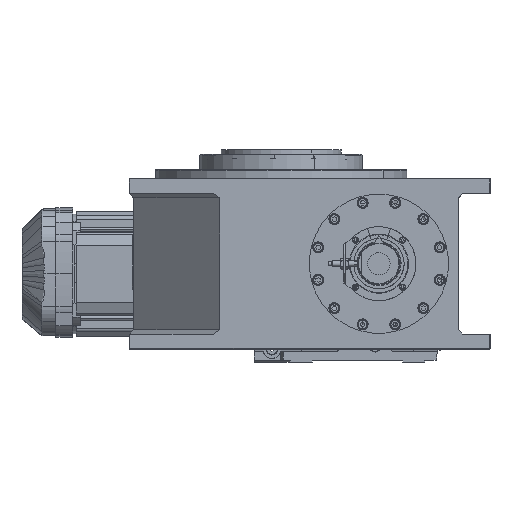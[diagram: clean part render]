
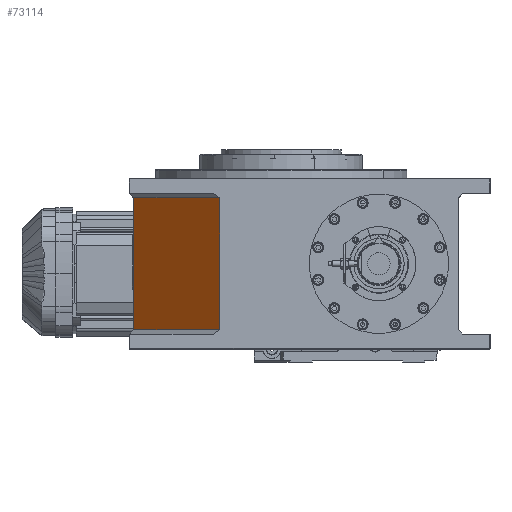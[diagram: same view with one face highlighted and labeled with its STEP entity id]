
A CAD part, top view. The second image highlights one B-rep face of the part: STEP entity #73114.
In plain terms, the highlighted planar face has unit normal (-0.707, 0, 0.707).
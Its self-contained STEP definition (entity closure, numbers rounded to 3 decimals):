
#1598 = CARTESIAN_POINT ( 'NONE',  ( -83.259, 210., 199. ) ) ;
#2808 = CARTESIAN_POINT ( 'NONE',  ( -199., 204., 83.259 ) ) ;
#6483 = AXIS2_PLACEMENT_3D ( 'NONE', #41016, #56035, #42030 ) ;
#7607 = DIRECTION ( 'NONE',  ( 0., -1., 0. ) ) ;
#8006 = DIRECTION ( 'NONE',  ( -0.707, 0., -0.707 ) ) ;
#12718 = CARTESIAN_POINT ( 'NONE',  ( -83.259, 26., 199. ) ) ;
#13992 = CARTESIAN_POINT ( 'NONE',  ( -199., 210., 83.259 ) ) ;
#21503 = LINE ( 'NONE', #13992, #76202 ) ;
#22595 = LINE ( 'NONE', #44779, #63235 ) ;
#24342 = VECTOR ( 'NONE', #7607, 1000. ) ;
#34984 = ORIENTED_EDGE ( 'NONE', *, *, #62269, .T. ) ;
#37275 = CARTESIAN_POINT ( 'NONE',  ( -199., 26., 83.259 ) ) ;
#37759 = LINE ( 'NONE', #1598, #24342 ) ;
#41016 = CARTESIAN_POINT ( 'NONE',  ( -83.259, 210., 199. ) ) ;
#42030 = DIRECTION ( 'NONE',  ( -0.707, 0., -0.707 ) ) ;
#44315 = VECTOR ( 'NONE', #72981, 1000. ) ;
#44624 = VERTEX_POINT ( 'NONE', #99109 ) ;
#44779 = CARTESIAN_POINT ( 'NONE',  ( -199., 204., 83.259 ) ) ;
#50302 = CARTESIAN_POINT ( 'NONE',  ( -83.259, 26., 199. ) ) ;
#53109 = DIRECTION ( 'NONE',  ( 0., -1., 0. ) ) ;
#56000 = EDGE_CURVE ( 'NONE', #44624, #83010, #37759, .T. ) ;
#56035 = DIRECTION ( 'NONE',  ( 0.707, 0., -0.707 ) ) ;
#58851 = EDGE_LOOP ( 'NONE', ( #72189, #34984, #66465, #93001 ) ) ;
#62269 = EDGE_CURVE ( 'NONE', #44624, #65416, #22595, .T. ) ;
#62677 = EDGE_CURVE ( 'NONE', #65416, #89645, #21503, .T. ) ;
#63235 = VECTOR ( 'NONE', #8006, 1000. ) ;
#64391 = LINE ( 'NONE', #50302, #44315 ) ;
#65416 = VERTEX_POINT ( 'NONE', #2808 ) ;
#66465 = ORIENTED_EDGE ( 'NONE', *, *, #62677, .T. ) ;
#72189 = ORIENTED_EDGE ( 'NONE', *, *, #56000, .F. ) ;
#72981 = DIRECTION ( 'NONE',  ( 0.707, 0., 0.707 ) ) ;
#73114 = ADVANCED_FACE ( 'NONE', ( #79241 ), #95911, .F. ) ;
#76202 = VECTOR ( 'NONE', #53109, 1000. ) ;
#79241 = FACE_OUTER_BOUND ( 'NONE', #58851, .T. ) ;
#83010 = VERTEX_POINT ( 'NONE', #12718 ) ;
#89645 = VERTEX_POINT ( 'NONE', #37275 ) ;
#93001 = ORIENTED_EDGE ( 'NONE', *, *, #98295, .T. ) ;
#95911 = PLANE ( 'NONE',  #6483 ) ;
#98295 = EDGE_CURVE ( 'NONE', #89645, #83010, #64391, .T. ) ;
#99109 = CARTESIAN_POINT ( 'NONE',  ( -83.259, 204., 199. ) ) ;
